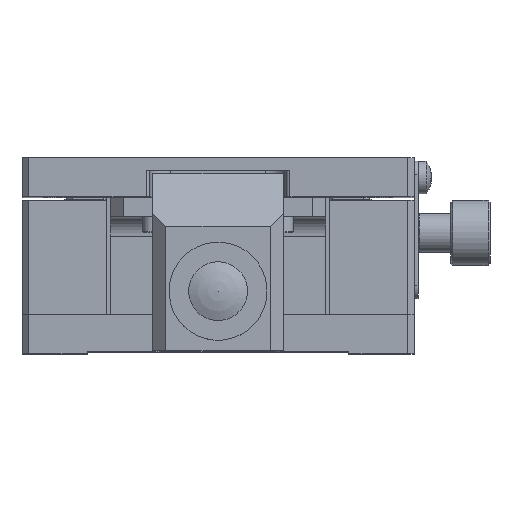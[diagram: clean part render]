
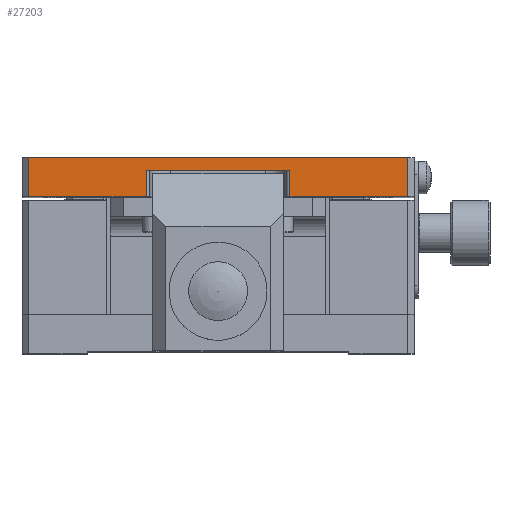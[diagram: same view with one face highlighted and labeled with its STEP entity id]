
A CAD part, top view. The second image highlights one B-rep face of the part: STEP entity #27203.
In plain terms, the highlighted planar face has unit normal (0, 0, 1).
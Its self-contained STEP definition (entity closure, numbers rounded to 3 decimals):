
#649 = VERTEX_POINT ( 'NONE', #15194 ) ;
#1112 = DIRECTION ( 'NONE',  ( -1., 0., 0. ) ) ;
#1146 = VECTOR ( 'NONE', #14284, 1000. ) ;
#2118 = ORIENTED_EDGE ( 'NONE', *, *, #40093, .T. ) ;
#2733 = CARTESIAN_POINT ( 'NONE',  ( 29., 30., 30. ) ) ;
#2746 = VERTEX_POINT ( 'NONE', #2733 ) ;
#3018 = EDGE_CURVE ( 'NONE', #35494, #38901, #10627, .T. ) ;
#3866 = DIRECTION ( 'NONE',  ( 0., -1., 0. ) ) ;
#3967 = VERTEX_POINT ( 'NONE', #6197 ) ;
#4270 = LINE ( 'NONE', #25644, #39837 ) ;
#4729 = CARTESIAN_POINT ( 'NONE',  ( 11., 30., 30. ) ) ;
#4752 = FACE_OUTER_BOUND ( 'NONE', #21456, .T. ) ;
#6197 = CARTESIAN_POINT ( 'NONE',  ( -29., 30., 30. ) ) ;
#6339 = ORIENTED_EDGE ( 'NONE', *, *, #11341, .F. ) ;
#7396 = EDGE_CURVE ( 'NONE', #38901, #38067, #32757, .T. ) ;
#8297 = DIRECTION ( 'NONE',  ( -1., 0., 0. ) ) ;
#8587 = CARTESIAN_POINT ( 'NONE',  ( -11., 30., 30. ) ) ;
#8653 = VECTOR ( 'NONE', #38650, 1000. ) ;
#9461 = DIRECTION ( 'NONE',  ( 0., 1., 0. ) ) ;
#10627 = LINE ( 'NONE', #4729, #19459 ) ;
#10843 = CARTESIAN_POINT ( 'NONE',  ( 29., 24., 30. ) ) ;
#11341 = EDGE_CURVE ( 'NONE', #35494, #649, #32945, .T. ) ;
#12072 = VECTOR ( 'NONE', #9461, 1000. ) ;
#12662 = ORIENTED_EDGE ( 'NONE', *, *, #7396, .T. ) ;
#12730 = EDGE_CURVE ( 'NONE', #3967, #2746, #35649, .T. ) ;
#14284 = DIRECTION ( 'NONE',  ( 1., 0., 0. ) ) ;
#14423 = CARTESIAN_POINT ( 'NONE',  ( -10.5, 28., 30. ) ) ;
#14862 = CARTESIAN_POINT ( 'NONE',  ( -30., 24., 30. ) ) ;
#14914 = LINE ( 'NONE', #8587, #26613 ) ;
#15194 = CARTESIAN_POINT ( 'NONE',  ( -11., 28., 30. ) ) ;
#16142 = ORIENTED_EDGE ( 'NONE', *, *, #19591, .T. ) ;
#17978 = DIRECTION ( 'NONE',  ( 0., 1., 0. ) ) ;
#18177 = CARTESIAN_POINT ( 'NONE',  ( 11., 28., 30. ) ) ;
#18877 = CARTESIAN_POINT ( 'NONE',  ( 11., 24., 30. ) ) ;
#19459 = VECTOR ( 'NONE', #23054, 1000. ) ;
#19591 = EDGE_CURVE ( 'NONE', #3967, #25497, #4270, .T. ) ;
#19842 = ORIENTED_EDGE ( 'NONE', *, *, #34636, .T. ) ;
#20022 = DIRECTION ( 'NONE',  ( 0., 0., -1. ) ) ;
#21456 = EDGE_LOOP ( 'NONE', ( #19842, #24891, #6339, #33007, #12662, #2118, #36864, #16142 ) ) ;
#22019 = CARTESIAN_POINT ( 'NONE',  ( -29., 24., 30. ) ) ;
#23054 = DIRECTION ( 'NONE',  ( 0., -1., 0. ) ) ;
#23269 = PLANE ( 'NONE',  #27269 ) ;
#24891 = ORIENTED_EDGE ( 'NONE', *, *, #27405, .T. ) ;
#25497 = VERTEX_POINT ( 'NONE', #22019 ) ;
#25644 = CARTESIAN_POINT ( 'NONE',  ( -29., 30., 30. ) ) ;
#26258 = CARTESIAN_POINT ( 'NONE',  ( -30., 24., 30. ) ) ;
#26613 = VECTOR ( 'NONE', #17978, 1000. ) ;
#27203 = ADVANCED_FACE ( 'NONE', ( #4752 ), #23269, .F. ) ;
#27269 = AXIS2_PLACEMENT_3D ( 'NONE', #32235, #20022, #1112 ) ;
#27405 = EDGE_CURVE ( 'NONE', #27912, #649, #14914, .T. ) ;
#27912 = VERTEX_POINT ( 'NONE', #38034 ) ;
#28979 = VECTOR ( 'NONE', #33588, 1000. ) ;
#31233 = LINE ( 'NONE', #37339, #12072 ) ;
#31587 = VECTOR ( 'NONE', #8297, 1000. ) ;
#32235 = CARTESIAN_POINT ( 'NONE',  ( -30., 30., 30. ) ) ;
#32757 = LINE ( 'NONE', #26258, #8653 ) ;
#32808 = CARTESIAN_POINT ( 'NONE',  ( -30., 30., 30. ) ) ;
#32945 = LINE ( 'NONE', #14423, #31587 ) ;
#33007 = ORIENTED_EDGE ( 'NONE', *, *, #3018, .T. ) ;
#33588 = DIRECTION ( 'NONE',  ( 1., 0., 0. ) ) ;
#34636 = EDGE_CURVE ( 'NONE', #25497, #27912, #39046, .T. ) ;
#35494 = VERTEX_POINT ( 'NONE', #18177 ) ;
#35649 = LINE ( 'NONE', #32808, #1146 ) ;
#36864 = ORIENTED_EDGE ( 'NONE', *, *, #12730, .F. ) ;
#37339 = CARTESIAN_POINT ( 'NONE',  ( 29., 30., 30. ) ) ;
#38034 = CARTESIAN_POINT ( 'NONE',  ( -11., 24., 30. ) ) ;
#38067 = VERTEX_POINT ( 'NONE', #10843 ) ;
#38650 = DIRECTION ( 'NONE',  ( 1., 0., 0. ) ) ;
#38901 = VERTEX_POINT ( 'NONE', #18877 ) ;
#39046 = LINE ( 'NONE', #14862, #28979 ) ;
#39837 = VECTOR ( 'NONE', #3866, 1000. ) ;
#40093 = EDGE_CURVE ( 'NONE', #38067, #2746, #31233, .T. ) ;
